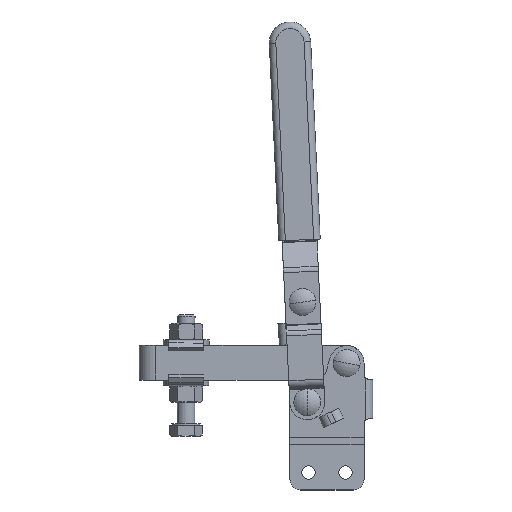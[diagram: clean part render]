
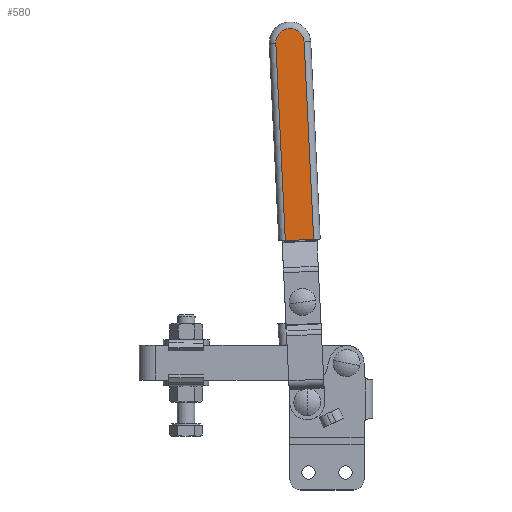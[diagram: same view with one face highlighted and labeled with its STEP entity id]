
A CAD part, top view. The second image highlights one B-rep face of the part: STEP entity #580.
In plain terms, the highlighted planar face has unit normal (0, 0, 1) as drawn and (0, -1, 0) by its records, which use the part's own axes.
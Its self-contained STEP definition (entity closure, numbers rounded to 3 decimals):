
#299 = DIRECTION ( 'NONE',  ( -1., 0., 0. ) ) ;
#403 = LINE ( 'NONE', #1474, #6202 ) ;
#563 = EDGE_CURVE ( 'NONE', #9782, #8730, #403, .T. ) ;
#580 = ADVANCED_FACE ( 'NONE', ( #4850 ), #3051, .F. ) ;
#675 = VECTOR ( 'NONE', #2547, 1000. ) ;
#945 = ORIENTED_EDGE ( 'NONE', *, *, #563, .T. ) ;
#989 = CARTESIAN_POINT ( 'NONE',  ( -90.5, -4.5, 6.5 ) ) ;
#1229 = EDGE_CURVE ( 'NONE', #3281, #7759, #4950, .T. ) ;
#1474 = CARTESIAN_POINT ( 'NONE',  ( -90.5, -4.5, -6.5 ) ) ;
#2110 = AXIS2_PLACEMENT_3D ( 'NONE', #9337, #10134, #5407 ) ;
#2256 = CARTESIAN_POINT ( 'NONE',  ( 0., -4.5, 6.5 ) ) ;
#2547 = DIRECTION ( 'NONE',  ( 0., 0., -1. ) ) ;
#3017 = LINE ( 'NONE', #6455, #675 ) ;
#3051 = PLANE ( 'NONE',  #2110 ) ;
#3281 = VERTEX_POINT ( 'NONE', #2256 ) ;
#3568 = CIRCLE ( 'NONE', #4128, 6.5 ) ;
#3660 = DIRECTION ( 'NONE',  ( 0., -1., 0. ) ) ;
#3780 = ORIENTED_EDGE ( 'NONE', *, *, #10125, .T. ) ;
#3903 = ORIENTED_EDGE ( 'NONE', *, *, #7296, .F. ) ;
#4128 = AXIS2_PLACEMENT_3D ( 'NONE', #8349, #3660, #9150 ) ;
#4850 = FACE_OUTER_BOUND ( 'NONE', #5990, .T. ) ;
#4950 = LINE ( 'NONE', #8922, #6777 ) ;
#5407 = DIRECTION ( 'NONE',  ( 0., 0., 1. ) ) ;
#5901 = CARTESIAN_POINT ( 'NONE',  ( 0., -4.5, -6.5 ) ) ;
#5990 = EDGE_LOOP ( 'NONE', ( #3780, #945, #3903, #8793 ) ) ;
#6202 = VECTOR ( 'NONE', #6953, 1000. ) ;
#6455 = CARTESIAN_POINT ( 'NONE',  ( 0., -4.5, 9.5 ) ) ;
#6777 = VECTOR ( 'NONE', #299, 1000. ) ;
#6953 = DIRECTION ( 'NONE',  ( 1., 0., 0. ) ) ;
#7296 = EDGE_CURVE ( 'NONE', #3281, #8730, #3017, .T. ) ;
#7759 = VERTEX_POINT ( 'NONE', #989 ) ;
#8349 = CARTESIAN_POINT ( 'NONE',  ( -90.5, -4.5, 0. ) ) ;
#8708 = CARTESIAN_POINT ( 'NONE',  ( -90.5, -4.5, -6.5 ) ) ;
#8730 = VERTEX_POINT ( 'NONE', #5901 ) ;
#8793 = ORIENTED_EDGE ( 'NONE', *, *, #1229, .T. ) ;
#8922 = CARTESIAN_POINT ( 'NONE',  ( -90.5, -4.5, 6.5 ) ) ;
#9150 = DIRECTION ( 'NONE',  ( 0., 0., 1. ) ) ;
#9337 = CARTESIAN_POINT ( 'NONE',  ( -90.5, -4.5, 0. ) ) ;
#9782 = VERTEX_POINT ( 'NONE', #8708 ) ;
#10125 = EDGE_CURVE ( 'NONE', #7759, #9782, #3568, .T. ) ;
#10134 = DIRECTION ( 'NONE',  ( 0., 1., 0. ) ) ;
